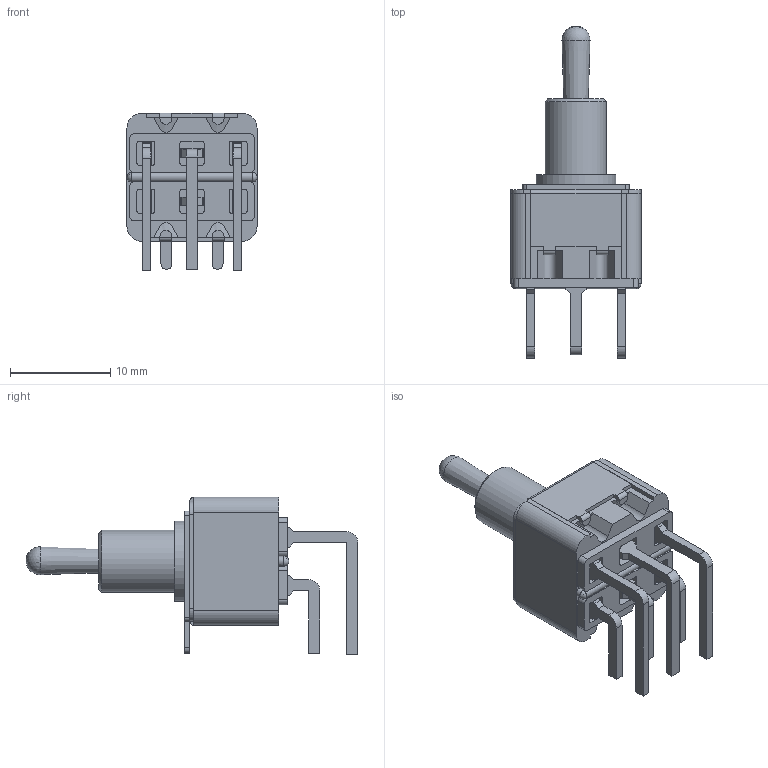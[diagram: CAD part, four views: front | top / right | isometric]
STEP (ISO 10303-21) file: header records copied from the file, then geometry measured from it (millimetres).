
FILE_DESCRIPTION((''),'2;1');
FILE_NAME('E:\エスジーエム\技術部\担当毎\おらい２\メール\添付\送信\社内\長岡部長\STM206P-RA(外観図）.stp','2015-12-19T10:13:57',('USER02'),(''),'Autodesk Inventor 2012','Autodesk Inventor 2012','');
FILE_SCHEMA(('AUTOMOTIVE_DESIGN { 1 0 10303 214 1 1 1 1 }'));
Length unit declared in the file: millimetre
Products named in the file (13): STM206P-RA; STM206P-RA（フレーム回り）; スリーブ(0089R)改4カシメ; フレーム（2134）～(2138)(2141)(2143)(2334)～(2336)(2338)カシメ; プレート（0024）（0080）改2; ツマミ（0025R）改3; STM206P-RA(ボックス回り); ボックス（0057）（0061）（0103）改3; シジダ（0037）（0038）（0077）改4曲げA; シジダ（0037）（0038）（0077）改4曲げB; コ接点（0041）（0046）（0062）改4曲げA; コ接点（0041）（0046）（0062）改4曲げB; Ｅペレット（0060）
Assembly tree (15 placements, depth 3):
  STM206P-RA
    STM206P-RA（フレーム回り）
      スリーブ(0089R)改4カシメ
      フレーム（2134）～(2138)(2141)(2143)(2334)～(2336)(2338)カシメ
      プレート（0024）（0080）改2
      ツマミ（0025R）改3
    STM206P-RA(ボックス回り)
      ボックス（0057）（0061）（0103）改3
      シジダ（0037）（0038）（0077）改4曲げA
      シジダ（0037）（0038）（0077）改4曲げB
      コ接点（0041）（0046）（0062）改4曲げA  x2
      コ接点（0041）（0046）（0062）改4曲げB  x2
      Ｅペレット（0060）  x2
Bounding box: 13 x 33.17 x 15.75 mm (x, y, z)
Volume: 1191.3 mm3; surface area: 3243.2 mm2
Topology: 13 solids, 13 shells, 529 faces, 1480 edges, 975 vertices
Faces by surface type: plane 371, cylinder 136, cone 11, sphere 4, bspline 4, torus 3
Full cylindrical faces by diameter (mm): 1.15 x1, 2.3 x1, 3.05 x1, 3.4 x1, 4 x1
Entity records: 14541 total; most frequent: CARTESIAN_POINT 2733, ORIENTED_EDGE 2418, DIRECTION 2341, EDGE_CURVE 1209, VECTOR 955, LINE 955, VERTEX_POINT 803, AXIS2_PLACEMENT_3D 693
